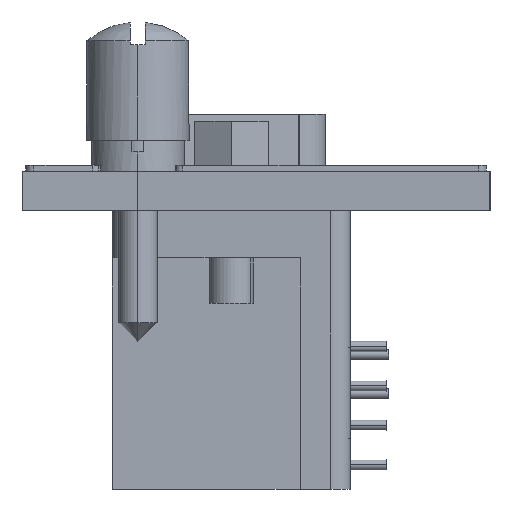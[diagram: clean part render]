
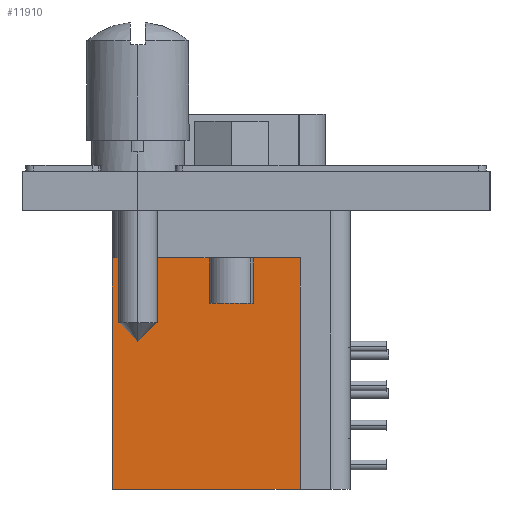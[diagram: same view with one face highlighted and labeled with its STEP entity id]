
A CAD part, left-side view. The second image highlights one B-rep face of the part: STEP entity #11910.
In plain terms, the highlighted planar face has unit normal (-1, 0, 0).
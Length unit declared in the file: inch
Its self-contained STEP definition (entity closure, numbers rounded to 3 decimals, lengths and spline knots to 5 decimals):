
#3049=DIRECTION('',(0.,0.,1.));
#3050=VECTOR('',#3049,0.5876);
#3051=CARTESIAN_POINT('',(2.0165,0.954,-0.7076));
#3052=LINE('',#3051,#3050);
#3093=DIRECTION('',(0.,-1.,0.));
#3094=VECTOR('',#3093,0.477);
#3095=CARTESIAN_POINT('',(2.0165,0.954,-0.7076));
#3096=LINE('',#3095,#3094);
#3202=DIRECTION('',(0.,-1.,0.));
#3203=VECTOR('',#3202,0.477);
#3204=CARTESIAN_POINT('',(2.0165,0.954,-0.12));
#3205=LINE('',#3204,#3203);
#3221=DIRECTION('',(0.,0.,-1.));
#3222=VECTOR('',#3221,0.5876);
#3223=CARTESIAN_POINT('',(2.0165,0.477,-0.12));
#3224=LINE('',#3223,#3222);
#7059=CARTESIAN_POINT('',(2.0165,0.477,-0.7076));
#7061=VERTEX_POINT('',#7059);
#7063=CARTESIAN_POINT('',(2.0165,0.954,-0.7076));
#7064=VERTEX_POINT('',#7063);
#7073=CARTESIAN_POINT('',(2.0165,0.954,-0.12));
#7074=VERTEX_POINT('',#7073);
#7083=CARTESIAN_POINT('',(2.0165,0.477,-0.12));
#7084=VERTEX_POINT('',#7083);
#11897=CARTESIAN_POINT('',(2.0165,0.954,-0.12));
#11898=DIRECTION('',(1.,0.,0.));
#11899=DIRECTION('',(0.,0.,-1.));
#11900=AXIS2_PLACEMENT_3D('',#11897,#11898,#11899);
#11901=PLANE('',#11900);
#11902=ORIENTED_EDGE('',*,*,#11739,.F.);
#11903=ORIENTED_EDGE('',*,*,#11672,.T.);
#11905=ORIENTED_EDGE('',*,*,#11904,.T.);
#11907=ORIENTED_EDGE('',*,*,#11906,.T.);
#11908=EDGE_LOOP('',(#11902,#11903,#11905,#11907));
#11909=FACE_OUTER_BOUND('',#11908,.F.);
#11910=ADVANCED_FACE('',(#11909),#11901,.F.);
#11672=EDGE_CURVE('',#7064,#7074,#3052,.T.);
#11739=EDGE_CURVE('',#7064,#7061,#3096,.T.);
#11904=EDGE_CURVE('',#7074,#7084,#3205,.T.);
#11906=EDGE_CURVE('',#7084,#7061,#3224,.T.);
